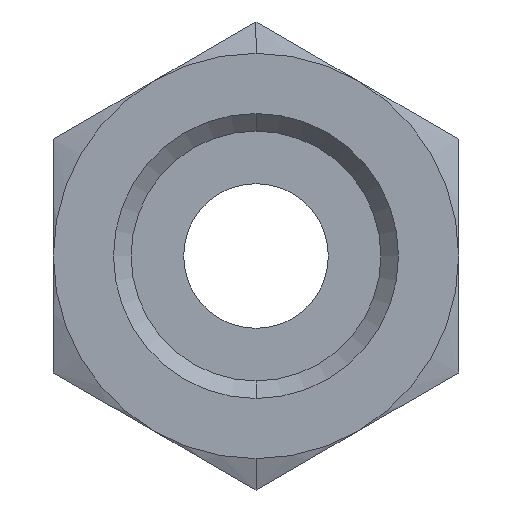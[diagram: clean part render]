
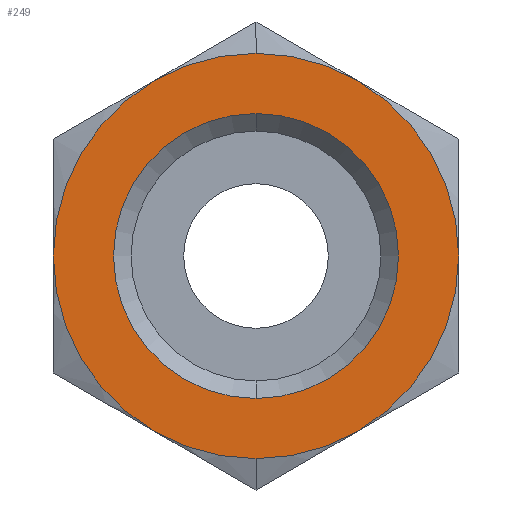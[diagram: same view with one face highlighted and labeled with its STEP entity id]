
A CAD part, left-side view. The second image highlights one B-rep face of the part: STEP entity #249.
In plain terms, the highlighted planar face has unit normal (-1, 0, 0).
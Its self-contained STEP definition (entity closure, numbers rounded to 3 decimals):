
#249=ADVANCED_FACE('',(#507,#508),#509,.F.);
#507=FACE_OUTER_BOUND('',#761,.T.);
#508=FACE_BOUND('',#762,.T.);
#509=PLANE('',#763);
#761=EDGE_LOOP('',(#1365,#1366,#1367,#1368,#1369,#1370,#1371,#1372));
#762=EDGE_LOOP('',(#1373,#1374));
#763=AXIS2_PLACEMENT_3D('',#1375,#1376,#1377);
#1365=ORIENTED_EDGE('',*,*,#1620,.T.);
#1366=ORIENTED_EDGE('',*,*,#1625,.T.);
#1367=ORIENTED_EDGE('',*,*,#1630,.T.);
#1368=ORIENTED_EDGE('',*,*,#1464,.T.);
#1369=ORIENTED_EDGE('',*,*,#1633,.T.);
#1370=ORIENTED_EDGE('',*,*,#1628,.T.);
#1371=ORIENTED_EDGE('',*,*,#1467,.T.);
#1372=ORIENTED_EDGE('',*,*,#1622,.T.);
#1373=ORIENTED_EDGE('',*,*,#1485,.T.);
#1374=ORIENTED_EDGE('',*,*,#1584,.T.);
#1375=CARTESIAN_POINT('',(0.,0.,0.));
#1376=DIRECTION('',(1.0,0.0,0.));
#1377=DIRECTION('',(0.,0.0,-1.0));
#1464=EDGE_CURVE('',#1730,#1732,#1734,.T.);
#1467=EDGE_CURVE('',#1739,#1736,#1740,.T.);
#1485=EDGE_CURVE('',#1769,#1766,#1770,.T.);
#1584=EDGE_CURVE('',#1766,#1769,#1902,.T.);
#1620=EDGE_CURVE('',#1945,#1949,#1951,.T.);
#1622=EDGE_CURVE('',#1736,#1945,#1953,.T.);
#1625=EDGE_CURVE('',#1949,#1955,#1958,.T.);
#1628=EDGE_CURVE('',#1934,#1739,#1961,.T.);
#1630=EDGE_CURVE('',#1955,#1730,#1963,.T.);
#1633=EDGE_CURVE('',#1732,#1934,#1966,.T.);
#1730=VERTEX_POINT('',#2071);
#1732=VERTEX_POINT('',#2074);
#1734=CIRCLE('',#2087,7.9);
#1736=VERTEX_POINT('',#2089);
#1739=VERTEX_POINT('',#2093);
#1740=CIRCLE('',#2094,7.9);
#1766=VERTEX_POINT('',#2155);
#1769=VERTEX_POINT('',#2159);
#1770=CIRCLE('',#2160,5.556);
#1902=CIRCLE('',#2309,5.556);
#1934=VERTEX_POINT('',#2452);
#1945=VERTEX_POINT('',#2499);
#1949=VERTEX_POINT('',#2525);
#1951=CIRCLE('',#2538,7.9);
#1953=CIRCLE('',#2540,7.9);
#1955=VERTEX_POINT('',#2542);
#1958=CIRCLE('',#2556,7.9);
#1961=CIRCLE('',#2570,7.9);
#1963=CIRCLE('',#2572,7.9);
#1966=CIRCLE('',#2586,7.9);
#2071=CARTESIAN_POINT('',(0.,0.,7.9));
#2074=CARTESIAN_POINT('',(0.,3.95,6.842));
#2087=AXIS2_PLACEMENT_3D('',#2715,#2716,#2717);
#2089=CARTESIAN_POINT('',(0.,0.,-7.9));
#2093=CARTESIAN_POINT('',(0.,3.95,-6.842));
#2094=AXIS2_PLACEMENT_3D('',#2719,#2720,#2721);
#2155=CARTESIAN_POINT('',(0.,0.,-5.556));
#2159=CARTESIAN_POINT('',(0.,0.0,5.556));
#2160=AXIS2_PLACEMENT_3D('',#2746,#2747,#2748);
#2309=AXIS2_PLACEMENT_3D('',#2904,#2905,#2906);
#2452=CARTESIAN_POINT('',(0.,7.9,0.));
#2499=CARTESIAN_POINT('',(0.,-3.95,-6.842));
#2525=CARTESIAN_POINT('',(0.0,-7.9,0.0));
#2538=AXIS2_PLACEMENT_3D('',#2923,#2924,#2925);
#2540=AXIS2_PLACEMENT_3D('',#2926,#2927,#2928);
#2542=CARTESIAN_POINT('',(0.,-3.95,6.842));
#2556=AXIS2_PLACEMENT_3D('',#2929,#2930,#2931);
#2570=AXIS2_PLACEMENT_3D('',#2932,#2933,#2934);
#2572=AXIS2_PLACEMENT_3D('',#2935,#2936,#2937);
#2586=AXIS2_PLACEMENT_3D('',#2938,#2939,#2940);
#2715=CARTESIAN_POINT('',(0.0,0.0,0.0));
#2716=DIRECTION('',(-1.0,-0.0,0.));
#2717=DIRECTION('',(0.,0.0,-1.0));
#2719=CARTESIAN_POINT('',(0.0,0.0,0.0));
#2720=DIRECTION('',(-1.0,-0.0,0.));
#2721=DIRECTION('',(0.,0.0,-1.0));
#2746=CARTESIAN_POINT('',(0.0,0.0,0.0));
#2747=DIRECTION('',(1.0,0.0,0.));
#2748=DIRECTION('',(0.,0.0,1.0));
#2904=CARTESIAN_POINT('',(0.0,0.0,0.0));
#2905=DIRECTION('',(1.0,0.0,0.));
#2906=DIRECTION('',(0.,0.0,1.0));
#2923=CARTESIAN_POINT('',(0.0,0.0,0.0));
#2924=DIRECTION('',(-1.0,-0.0,0.));
#2925=DIRECTION('',(0.,0.0,-1.0));
#2926=CARTESIAN_POINT('',(0.0,0.0,0.0));
#2927=DIRECTION('',(-1.0,-0.0,0.));
#2928=DIRECTION('',(0.,0.0,-1.0));
#2929=CARTESIAN_POINT('',(0.0,0.0,0.0));
#2930=DIRECTION('',(-1.0,-0.0,0.));
#2931=DIRECTION('',(0.,0.0,-1.0));
#2932=CARTESIAN_POINT('',(0.0,0.0,0.0));
#2933=DIRECTION('',(-1.0,-0.0,0.));
#2934=DIRECTION('',(0.,0.0,-1.0));
#2935=CARTESIAN_POINT('',(0.0,0.0,0.0));
#2936=DIRECTION('',(-1.0,-0.0,0.));
#2937=DIRECTION('',(0.,0.0,-1.0));
#2938=CARTESIAN_POINT('',(0.0,0.0,0.0));
#2939=DIRECTION('',(-1.0,-0.0,0.));
#2940=DIRECTION('',(0.,0.0,-1.0));
